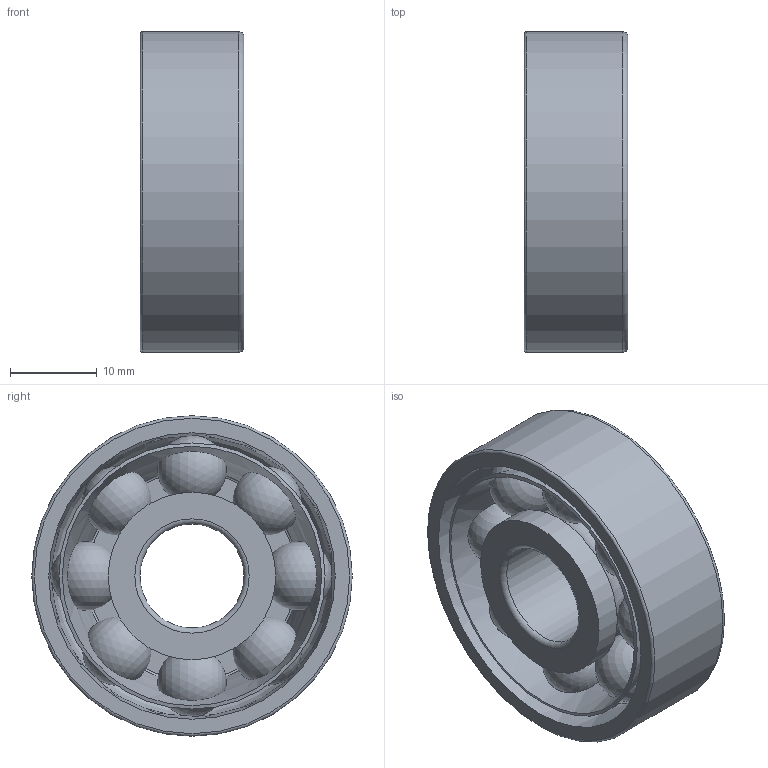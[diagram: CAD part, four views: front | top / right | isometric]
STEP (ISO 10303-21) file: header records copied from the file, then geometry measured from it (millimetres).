
FILE_DESCRIPTION(/* description */ (''),/* implementation_level */ '2;1');
FILE_NAME(/* name */ 'D:\BASISTA_PLOCHA\PARAMETRICKE PRE STP\STEP-PRE BELESTAKA\Jednoradové gulkové ložiská s kosouhlým stykom-je\7301B.stp',/* time_stamp */ '2020-03-03T08:34:25+01:00',/* author */ ('OUBASISTA'),/* organization */ (''),/* preprocessor_version */ 'ST-DEVELOPER v17.2',/* originating_system */ 'Autodesk Inventor 2019',/* authorisation */ '');
FILE_SCHEMA (('AUTOMOTIVE_DESIGN { 1 0 10303 214 3 1 1 }'));
Length unit declared in the file: millimetre
Products named in the file (5): 7301B; 7301B-02; 7301B-ball; 7301B-01; 7301B-cage
Assembly tree (11 placements, depth 2):
  7301B
    7301B-02
    7301B-ball  x8
    7301B-01
    7301B-cage
Bounding box: 12 x 37 x 37 mm (x, y, z)
Volume: 7388.6 mm3; surface area: 7895.8 mm2
Topology: 11 solids, 11 shells, 40 faces, 122 edges, 94 vertices
Faces by surface type: sphere 16, torus 8, plane 6, cylinder 5, cone 5
Full cylindrical faces by diameter (mm): 12 x1, 18.433 x1, 19.34 x1, 28.866 x1, 37 x1
Entity records: 2117 total; most frequent: CARTESIAN_POINT 888, DIRECTION 244, ORIENTED_EDGE 198, AXIS2_PLACEMENT_3D 116, EDGE_CURVE 99, VERTEX_POINT 80, CIRCLE 67, EDGE_LOOP 61
